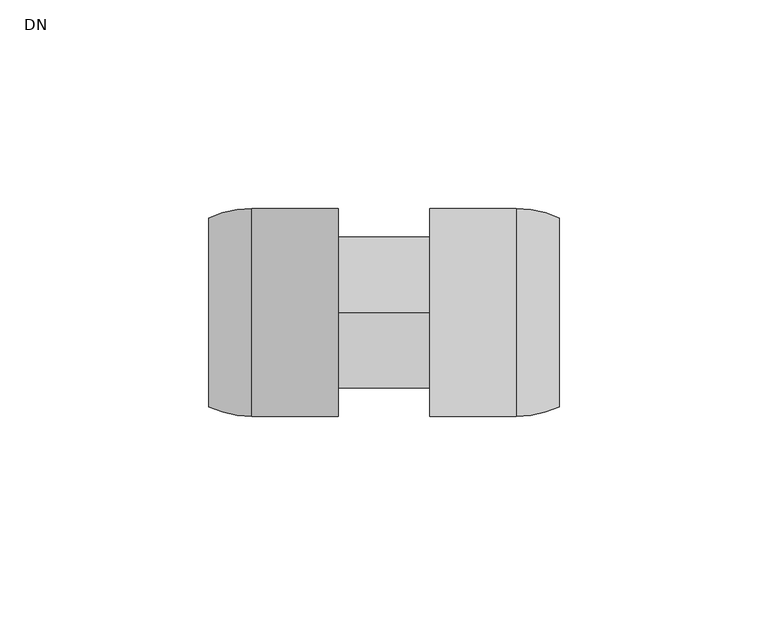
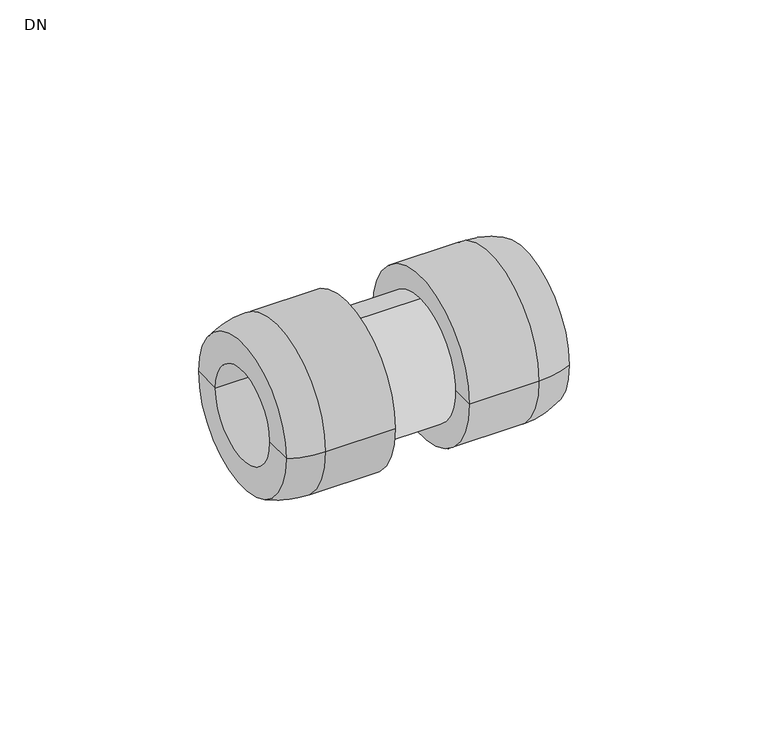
"""IFC4 building model written with IfcOpenShell, lengths in millimetres: pipe fitting geometry, Wavin_PipeFitting_Hep2oCoupler : DN."""

from ifc_helpers import new_model, si_unit, point, frame, origin, origin_2d, place, context, project, spatial, polyline, circle_curve, ellipse_curve, trimmed, segment, composite_curve, outline, extrude, source, transform, mapped, element, save
from ifc_brep_helpers import plane_surface, cylinder_surface, revolved_surface, advanced_brep


def dn_f05efcd2(model_context):
    return source(origin(), model_context, "Body", "SolidModel", [
        advanced_brep(
        [(22.0, 14.0, 0.0), (22.0, -14.0, 0.0), (53.0, -14.0, 0.0), (53.0, 14.0, 0.0), (22.0, 24.9, 0.0), (22.0, -24.9, 0.0), (42.6666667, 24.9, 0.0), (42.6666667, -24.9, 0.0), (53.0, 22.6546292, 0.0), (53.0, -22.6546292, 0.0)],
        [
            (0, 1, circle_curve(frame((22.0, 0.0, 0.0), z_axis=(-1.0, 0.0, 0.0), x_axis=(0.0, -1.0, 0.0)), 14.0)),
            (1, 2),
            (2, 3, circle_curve(frame((53.0, 0.0, 0.0), z_axis=(1.0, 0.0, 0.0), x_axis=(0.0, -1.0, 0.0)), 14.0)),
            (3, 0),
            (1, 0, circle_curve(frame((22.0, 0.0, 0.0), z_axis=(-1.0, 0.0, 0.0), x_axis=(0.0, -1.0, 0.0)), 14.0)),
            (3, 2, circle_curve(frame((53.0, 0.0, 0.0), z_axis=(1.0, 0.0, 0.0), x_axis=(0.0, -1.0, 0.0)), 14.0)),
            (4, 5, circle_curve(frame((22.0, 0.0, 0.0), z_axis=(-1.0, 0.0, 0.0), x_axis=(0.0, -1.0, 0.0)), 24.9)),
            (5, 1),
            (0, 4),
            (5, 4, circle_curve(frame((22.0, 0.0, 0.0), z_axis=(-1.0, 0.0, 0.0), x_axis=(0.0, -1.0, 0.0)), 24.9)),
            (6, 7, circle_curve(frame((42.6666667, 0.0, 0.0), z_axis=(-1.0, 0.0, 0.0), x_axis=(0.0, -1.0, 0.0)), 24.9)),
            (7, 5),
            (4, 6),
            (7, 6, circle_curve(frame((42.6666667, 0.0, 0.0), z_axis=(-1.0, 0.0, 0.0), x_axis=(0.0, -1.0, 0.0)), 24.9)),
            (8, 9, circle_curve(frame((53.0, 0.0, 0.0), z_axis=(-1.0, 0.0, 0.0), x_axis=(0.0, -1.0, 0.0)), 22.6546292)),
            (9, 7, circle_curve(frame((42.6666667, 0.0, 0.0), z_axis=(0.0, 0.0, -1.0), x_axis=(-1.0, 0.0, 0.0)), 24.9)),
            (6, 8, circle_curve(frame((42.6666667, 0.0, 0.0), z_axis=(0.0, 0.0, -1.0), x_axis=(-1.0, 0.0, 0.0)), 24.9)),
            (9, 8, circle_curve(frame((53.0, 0.0, 0.0), z_axis=(-1.0, 0.0, 0.0), x_axis=(0.0, -1.0, 0.0)), 22.6546292)),
            (2, 9),
            (8, 3),
        ],
        [
            revolved_surface(polyline([(53.0, -14.0, 0.0), (22.0, -14.0, 0.0)]), (-1978.0, 0.0, 0.0), (1.0, 0.0, 0.0)),
            plane_surface(frame((22.0, 0.0, 0.0), z_axis=(-1.0, 0.0, 0.0), x_axis=(0.0, -1.0, 0.0))),
            cylinder_surface(frame((-1978.0, 0.0, 0.0), z_axis=(1.0, 0.0, 0.0), x_axis=(0.0, -1.0, 0.0)), 24.9),
            revolved_surface(trimmed(ellipse_curve(frame((42.6666667, 0.0, 0.0), z_axis=(0.0, 0.0, 1.0), x_axis=(-1.0, 0.0, 0.0)), 24.9, 24.9), [point((42.6666667, -24.9, 0.0))], [point((53.0, -22.6546292, 0.0))], True, "CARTESIAN"), (-1978.0, 0.0, 0.0), (1.0, 0.0, 0.0)),
            plane_surface(frame((53.0, 0.0, 0.0), z_axis=(1.0, 0.0, 0.0), x_axis=(0.0, -1.0, 0.0))),
        ],
        [
            (0, [[1, 2, 3, 4]]),
            (0, [[5, -4, 6, -2]]),
            (1, [[7, 8, -1, 9]]),
            (1, [[10, -9, -5, -8]]),
            (2, [[11, 12, -7, 13]]),
            (2, [[14, -13, -10, -12]]),
            (3, [[15, 16, -11, 17]]),
            (3, [[18, -17, -14, -16]]),
            (4, [[-3, 19, -15, 20]]),
            (4, [[-6, -20, -18, -19]]),
        ],
    ),
        advanced_brep(
        [(0.0, -14.0, 0.0), (0.0, 14.0, 0.0), (-31.0, 14.0, 0.0), (-31.0, -14.0, 0.0), (0.0, -24.9, 0.0), (0.0, 24.9, 0.0), (-20.6666667, -24.9, 0.0), (-20.6666667, 24.9, 0.0), (-31.0, -22.6546292, 0.0), (-31.0, 22.6546292, 0.0)],
        [
            (0, 1, circle_curve(frame((0.0, 0.0, 0.0), z_axis=(1.0, 0.0, 0.0), x_axis=(0.0, 1.0, 0.0)), 14.0)),
            (1, 2),
            (2, 3, circle_curve(frame((-31.0, 0.0, 0.0), z_axis=(-1.0, 0.0, 0.0), x_axis=(0.0, 1.0, 0.0)), 14.0)),
            (3, 0),
            (1, 0, circle_curve(frame((0.0, 0.0, 0.0), z_axis=(1.0, 0.0, 0.0), x_axis=(0.0, 1.0, 0.0)), 14.0)),
            (3, 2, circle_curve(frame((-31.0, 0.0, 0.0), z_axis=(-1.0, 0.0, 0.0), x_axis=(0.0, 1.0, 0.0)), 14.0)),
            (4, 5, circle_curve(frame((0.0, 0.0, 0.0), z_axis=(1.0, 0.0, 0.0), x_axis=(0.0, 1.0, 0.0)), 24.9)),
            (5, 1),
            (0, 4),
            (5, 4, circle_curve(frame((0.0, 0.0, 0.0), z_axis=(1.0, 0.0, 0.0), x_axis=(0.0, 1.0, 0.0)), 24.9)),
            (6, 7, circle_curve(frame((-20.6666667, 0.0, 0.0), z_axis=(1.0, 0.0, 0.0), x_axis=(0.0, 1.0, 0.0)), 24.9)),
            (7, 5),
            (4, 6),
            (7, 6, circle_curve(frame((-20.6666667, 0.0, 0.0), z_axis=(1.0, 0.0, 0.0), x_axis=(0.0, 1.0, 0.0)), 24.9)),
            (8, 9, circle_curve(frame((-31.0, 0.0, 0.0), z_axis=(1.0, 0.0, 0.0), x_axis=(0.0, 1.0, 0.0)), 22.6546292)),
            (9, 7, circle_curve(frame((-20.6666667, 0.0, 0.0), z_axis=(0.0, 0.0, -1.0), x_axis=(1.0, 0.0, 0.0)), 24.9)),
            (6, 8, circle_curve(frame((-20.6666667, 0.0, 0.0), z_axis=(0.0, 0.0, -1.0), x_axis=(1.0, 0.0, 0.0)), 24.9)),
            (9, 8, circle_curve(frame((-31.0, 0.0, 0.0), z_axis=(1.0, 0.0, 0.0), x_axis=(0.0, 1.0, 0.0)), 22.6546292)),
            (2, 9),
            (8, 3),
        ],
        [
            revolved_surface(polyline([(-31.0, 14.0, 0.0), (0.0, 14.0, 0.0)]), (2000.0, 0.0, 0.0), (-1.0, 0.0, 0.0)),
            plane_surface(frame((0.0, 0.0, 0.0), z_axis=(1.0, 0.0, 0.0), x_axis=(0.0, 1.0, 0.0))),
            cylinder_surface(frame((2000.0, 0.0, 0.0), z_axis=(-1.0, 0.0, 0.0), x_axis=(0.0, 1.0, 0.0)), 24.9),
            revolved_surface(trimmed(ellipse_curve(frame((-20.6666667, 0.0, 0.0), z_axis=(0.0, 0.0, 1.0), x_axis=(1.0, 0.0, 0.0)), 24.9, 24.9), [point((-20.6666667, 24.9, 0.0))], [point((-31.0, 22.6546292, 0.0))], True, "CARTESIAN"), (2000.0, 0.0, 0.0), (-1.0, 0.0, 0.0)),
            plane_surface(frame((-31.0, 0.0, 0.0), z_axis=(-1.0, 0.0, 0.0), x_axis=(0.0, 1.0, 0.0))),
        ],
        [
            (0, [[1, 2, 3, 4]]),
            (0, [[5, -4, 6, -2]]),
            (1, [[7, 8, -1, 9]]),
            (1, [[10, -9, -5, -8]]),
            (2, [[11, 12, -7, 13]]),
            (2, [[14, -13, -10, -12]]),
            (3, [[15, 16, -11, 17]]),
            (3, [[18, -17, -14, -16]]),
            (4, [[-3, 19, -15, 20]]),
            (4, [[-6, -20, -18, -19]]),
        ],
    ),
        extrude(outline(composite_curve([segment(trimmed(circle_curve(origin_2d(), 18.2), [point((0.0, -18.2))], [point((0.0, 18.2))], False, "CARTESIAN"), True, "CONTINUOUS"), segment(trimmed(circle_curve(origin_2d(), 18.2), [point((0.0, 18.2))], [point((0.0, -18.2))], False, "CARTESIAN"), True, "CONTINUOUS")], self_intersect=False)), frame((0.0, 0.0, 0.0), z_axis=(1.0, 0.0, 0.0), x_axis=(0.0, 1.0, 0.0)), (0.0, 0.0, 1.0), 22.0),
    ])


if __name__ == "__main__":
    model = new_model("IFC4")
    model_context = context("Model", 3, world=origin())
    ifc_project = project(units=[si_unit("LENGTHUNIT", "METRE", prefix="MILLI")], contexts=[model_context])
    site = spatial("IfcSite", under=ifc_project)
    building = spatial("IfcBuilding", under=site)
    placement = place(None, origin())
    dn_shape = dn_f05efcd2(model_context)
    element("IfcPipeFitting", 1, ObjectType="Wavin_PipeFitting_Hep2oCoupler : DN", at=placement, inside=building, context=model_context, shape_type="MappedRepresentation", body=[
        mapped(dn_shape, transform((0.0, 0.0, 0.0), x_axis=(1.0, 0.0, 0.0), y_axis=(0.0, 1.0, 0.0), z_axis=(0.0, 0.0, 1.0))),
    ])
    save(model, "model.ifc")
